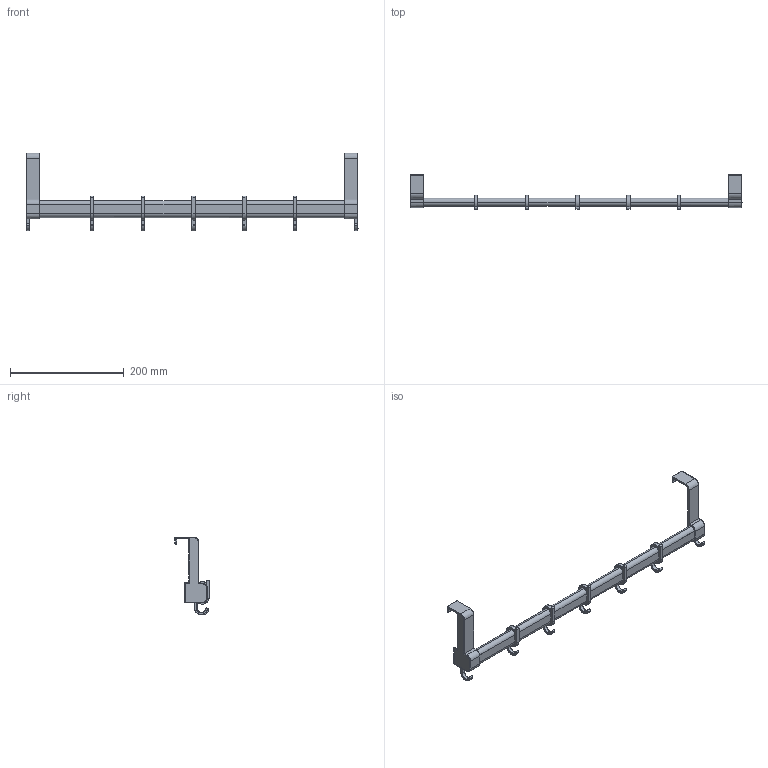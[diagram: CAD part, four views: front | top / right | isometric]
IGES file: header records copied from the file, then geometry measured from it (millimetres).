
Start section: C
Global section: file name: 0086-585.igs; native system: By Siemens PLM Incorporated; preprocessor: XPlus GENERIC/IGES 16.0.42; author: Author; organization: Title; date: 20231210.153100; units: millimetre
Bounding box: 584 x 60.2 x 137.1 mm (x, y, z)
Surface area: 130332.2 mm2 (no closed solid volume)
Topology: 0 solids, 0 shells, 224 faces, 1158 edges, 1152 vertices
Faces by surface type: bspline 224
